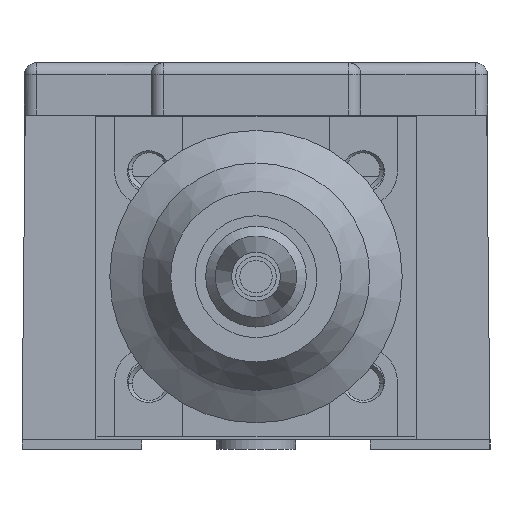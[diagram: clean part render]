
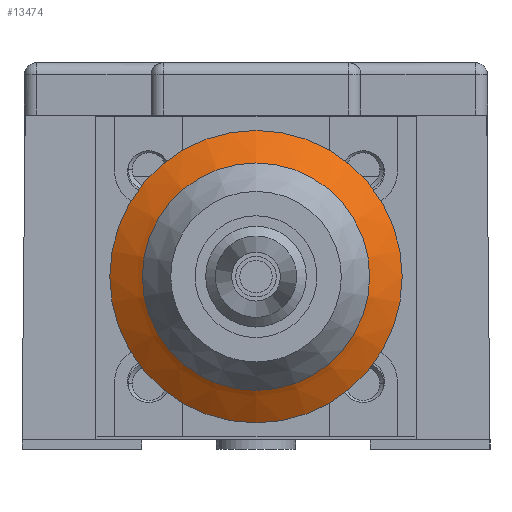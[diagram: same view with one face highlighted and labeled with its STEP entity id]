
A CAD part, left-side view. The second image highlights one B-rep face of the part: STEP entity #13474.
In plain terms, the highlighted conical face has half-angle 55.305 degrees and reference radius 9 mm.
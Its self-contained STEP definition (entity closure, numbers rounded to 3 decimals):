
#13454 = EDGE_CURVE('',#13455,#13455,#13457,.T.);
#13455 = VERTEX_POINT('',#13456);
#13456 = CARTESIAN_POINT('',(60.393,-4.628,222.715));
#13457 = CIRCLE('',#13458,9.);
#13458 = AXIS2_PLACEMENT_3D('',#13459,#13460,#13461);
#13459 = CARTESIAN_POINT('',(60.393,-4.628,231.715));
#13460 = DIRECTION('',(1.,0.,0.));
#13461 = DIRECTION('',(0.,0.,-1.));
#13474 = ADVANCED_FACE('',(#13475),#13493,.T.);
#13475 = FACE_BOUND('',#13476,.T.);
#13476 = EDGE_LOOP('',(#13477,#13486,#13491,#13492));
#13477 = ORIENTED_EDGE('',*,*,#13478,.T.);
#13478 = EDGE_CURVE('',#13479,#13479,#13481,.T.);
#13479 = VERTEX_POINT('',#13480);
#13480 = CARTESIAN_POINT('',(58.143,-4.628,225.965));
#13481 = CIRCLE('',#13482,5.75);
#13482 = AXIS2_PLACEMENT_3D('',#13483,#13484,#13485);
#13483 = CARTESIAN_POINT('',(58.143,-4.628,231.715));
#13484 = DIRECTION('',(1.,0.,0.));
#13485 = DIRECTION('',(0.,0.,-1.));
#13486 = ORIENTED_EDGE('',*,*,#13487,.T.);
#13487 = EDGE_CURVE('',#13479,#13455,#13488,.T.);
#13488 = B_SPLINE_CURVE_WITH_KNOTS('',1,(#13489,#13490),.UNSPECIFIED.,
  .F.,.F.,(2,2),(-3.953,0.),.PIECEWISE_BEZIER_KNOTS.);
#13489 = CARTESIAN_POINT('',(58.143,-4.628,225.965));
#13490 = CARTESIAN_POINT('',(60.393,-4.628,222.715));
#13491 = ORIENTED_EDGE('',*,*,#13454,.F.);
#13492 = ORIENTED_EDGE('',*,*,#13487,.F.);
#13493 = CONICAL_SURFACE('',#13494,9.,0.965);
#13494 = AXIS2_PLACEMENT_3D('',#13495,#13496,#13497);
#13495 = CARTESIAN_POINT('',(60.393,-4.628,231.715));
#13496 = DIRECTION('',(1.,0.,0.));
#13497 = DIRECTION('',(0.,0.,-1.));
